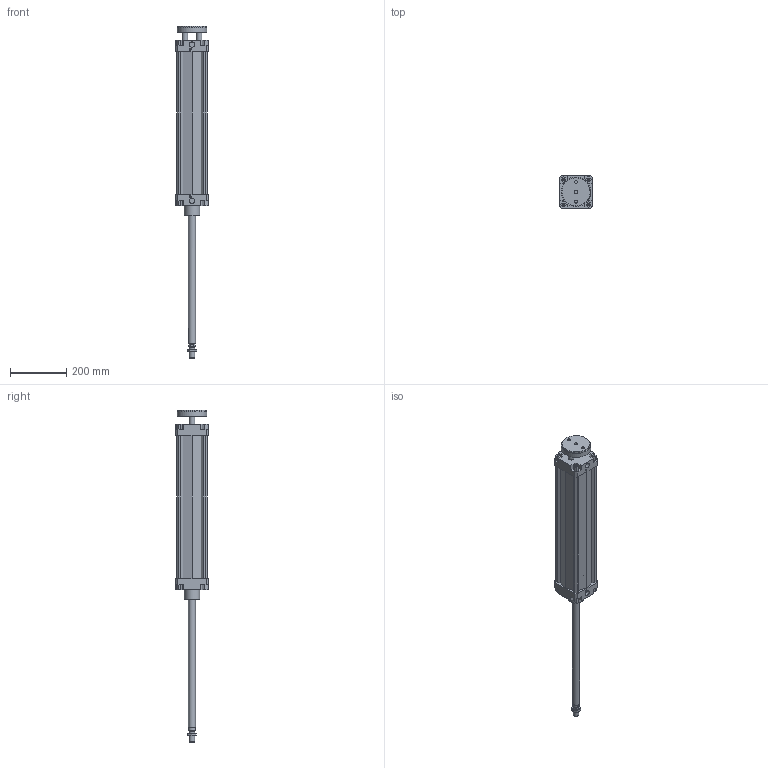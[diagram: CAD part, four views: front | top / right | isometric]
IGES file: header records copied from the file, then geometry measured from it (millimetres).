
Global section: file name: 132#_100_0450_02; native system: Autodesk Inventor 2014; preprocessor: unknown; author: A. Manieri; date: 20161006.163815; units: millimetre
Bounding box: 115 x 115 x 1180 mm (x, y, z)
Volume: 3497783.3 mm3; surface area: 672400.4 mm2
Topology: 3 solids, 3 shells, 220 faces, 589 edges, 397 vertices
Faces by surface type: bspline 220
